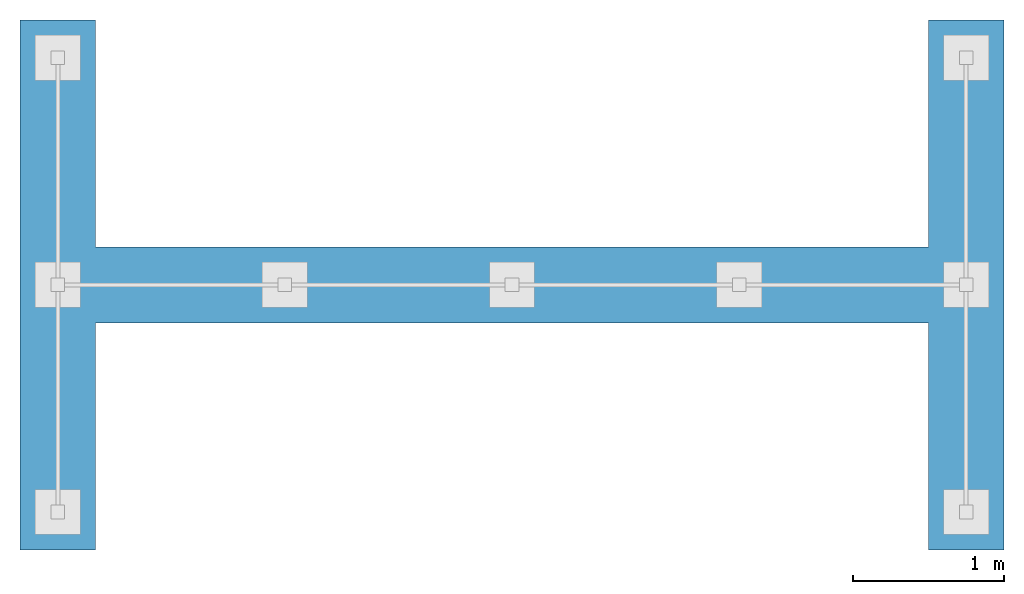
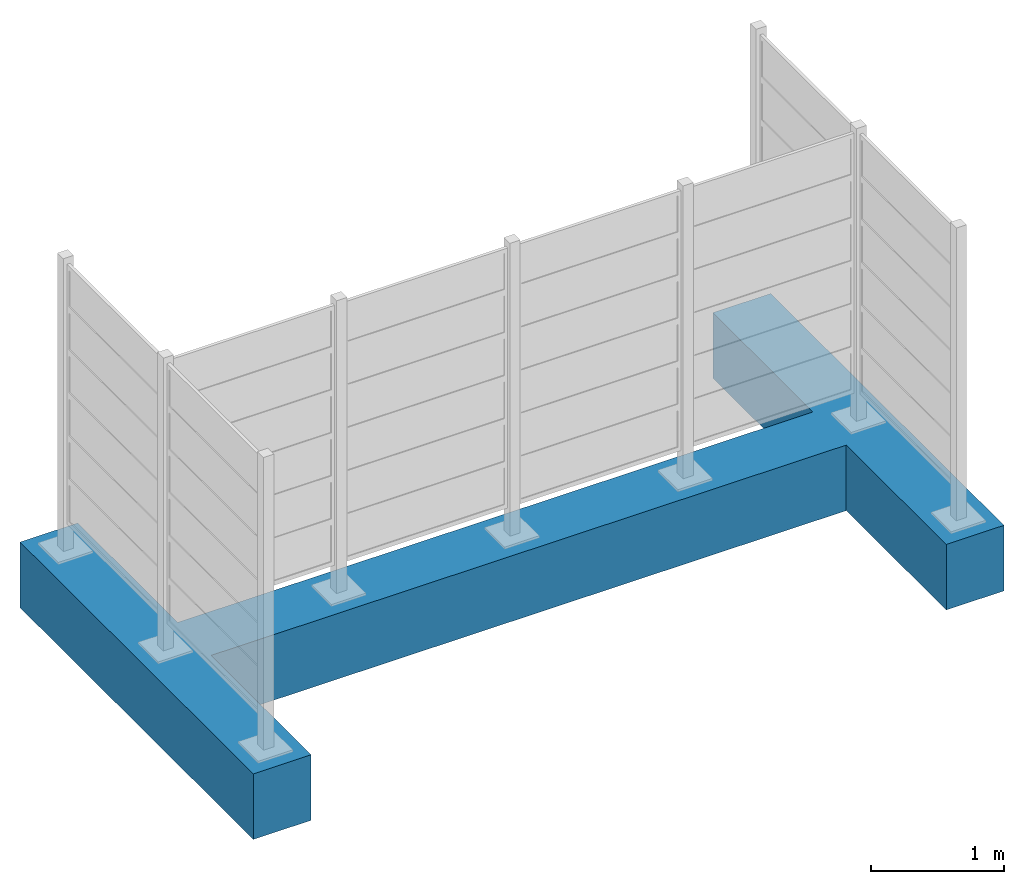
# One storey, incomplete: 1 slab.
"""IFC4 building model written with IfcOpenShell, lengths in metres."""

from ifc_helpers import new_model, entity, si_unit, converted_unit, direction, frame, frame_2d, origin, place, context, subcontext, project, spatial, i_section, extrude, material, type_object, element, save


model = new_model("IFC4")

# Units and contexts
model_context = context("Model", 3, precision=1e-05, world=origin(), true_north=direction((6.123031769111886e-17, 1.0)))
body_context = subcontext(model_context, "Body", "Model", "MODEL_VIEW")
ifc_project = project(units=[si_unit("LENGTHUNIT", "METRE"), converted_unit("PLANEANGLEUNIT", "DEGREE", entity("IfcPlaneAngleMeasure", 0.017453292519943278), si_unit("PLANEANGLEUNIT", "RADIAN"), dimensions=[0, 0, 0, 0, 0, 0, 0]), si_unit("AREAUNIT", "SQUARE_METRE")], contexts=[model_context])

# Site, building, storey
site_placement = place(None, origin())
site = spatial("IfcSite", under=ifc_project, at=site_placement, Name="Default", CompositionType="ELEMENT")
building_placement = place(site_placement, origin())
building = spatial("IfcBuilding", under=site, at=building_placement, CompositionType="ELEMENT")
storey_placement = place(building_placement, origin())
storey = spatial("IfcBuildingStorey", under=building, at=storey_placement, Name="DB_Bezugshoehe_max_Bahnsteigkante", CompositionType="ELEMENT", Elevation=0.0)

# Slab
ifc_material = material(Name="DB_Ortbeton", Category="DB_Beton")
slab_type = type_object("IfcSlabType", Name="DB_Windschutz_4-feldrig_H_Fundament:DB_Windschutz_4-feldrig_H_Fundament", PredefinedType="BASESLAB", material=ifc_material)
slab_placement = place(storey_placement, origin())
element("IfcSlab", 1, at=slab_placement, inside=storey, type_object=slab_type, Name="DB_Windschutz_4-feldrig_H_Fundament:DB_Windschutz_4-feldrig_H_Fundament", ObjectType="DB_Windschutz_4-feldrig_H_Fundament:DB_Windschutz_4-feldrig_H_Fundament", PredefinedType="BASESLAB", context=body_context, shape_type="SweptSolid", body=[
    extrude(i_section(OverallWidth=3.5000000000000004, OverallDepth=6.5, WebThickness=0.5000000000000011, FlangeThickness=0.4999999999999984, at=frame_2d((-1.5543122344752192e-15, 3.3861802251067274e-15), x_axis=(0.0, 1.0))), frame((3.0, 1.5000000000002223, 0.0), z_axis=(0.0, 0.0, -1.0), x_axis=(-1.0, 0.0, 0.0)), (0.0, 0.0, -1.0), 0.5999999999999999),
])

save(model, "model.ifc")
